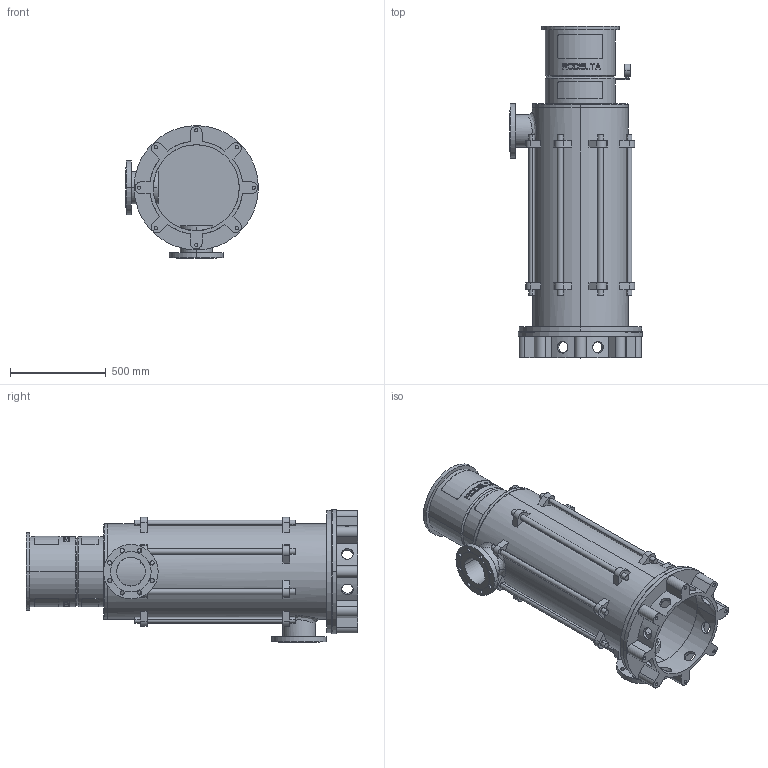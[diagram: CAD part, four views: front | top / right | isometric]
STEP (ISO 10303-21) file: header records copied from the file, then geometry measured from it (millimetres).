
FILE_DESCRIPTION((''),'2;1');
FILE_NAME('LS6_5TR_0GR_PN16_TOT_30KW','2025-10-23T15:58:01',('Lyritlocal'),(''),'CREO PARAMETRIC BY PTC INC, 2022014','CREO PARAMETRIC BY PTC INC, 2022014','');
FILE_SCHEMA(('CONFIG_CONTROL_DESIGN'));
Length unit declared in the file: millimetre
Products named in the file (1): LS6_5TR_0GR_PN16_TOT_30KW
Bounding box: 695 x 1735 x 695 mm (x, y, z)
Volume: 52530674.7 mm3; surface area: 7319932.2 mm2
Topology: 3 solids, 11 shells, 732 faces, 1891 edges, 1258 vertices
Faces by surface type: plane 438, cylinder 274, cone 12, bspline 8
Entity records: 24206 total; most frequent: CARTESIAN_POINT 6378, ORIENTED_EDGE 3750, DIRECTION 3537, EDGE_CURVE 1891, AXIS2_PLACEMENT_3D 1341, VERTEX_POINT 1258, EDGE_LOOP 893, VECTOR 855
